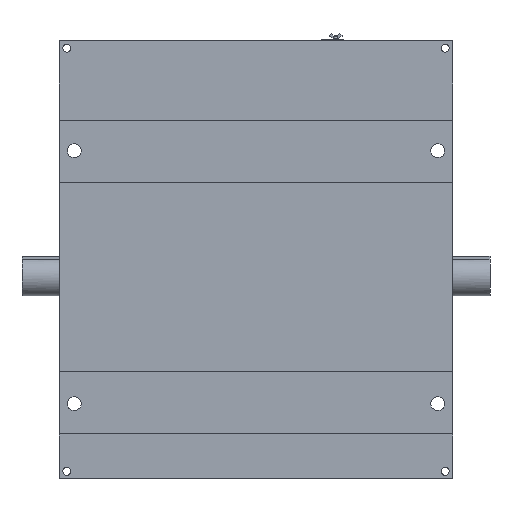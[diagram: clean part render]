
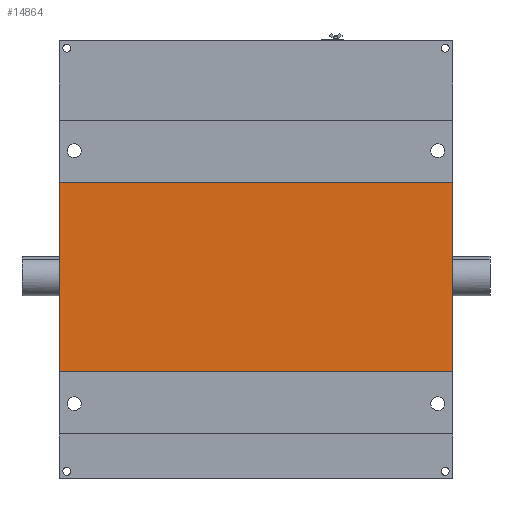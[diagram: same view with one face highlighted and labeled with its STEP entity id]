
A CAD part, front view. The second image highlights one B-rep face of the part: STEP entity #14864.
In plain terms, the highlighted planar face has unit normal (0, -1, 0).
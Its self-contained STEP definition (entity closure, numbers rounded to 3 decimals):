
#397 = DIRECTION ( 'NONE',  ( 0., 0., -1. ) ) ;
#1763 = CARTESIAN_POINT ( 'NONE',  ( 75., -367.5, 190. ) ) ;
#1904 = EDGE_CURVE ( 'NONE', #16243, #17895, #13025, .T. ) ;
#2425 = CARTESIAN_POINT ( 'NONE',  ( 865., -367.5, -190. ) ) ;
#2942 = VECTOR ( 'NONE', #9801, 1000. ) ;
#4615 = VERTEX_POINT ( 'NONE', #2425 ) ;
#4660 = LINE ( 'NONE', #22508, #5886 ) ;
#5289 = ORIENTED_EDGE ( 'NONE', *, *, #29200, .F. ) ;
#5886 = VECTOR ( 'NONE', #32347, 1000. ) ;
#7334 = AXIS2_PLACEMENT_3D ( 'NONE', #23382, #17747, #20556 ) ;
#9801 = DIRECTION ( 'NONE',  ( -1., 0., 0. ) ) ;
#10007 = VECTOR ( 'NONE', #15196, 1000. ) ;
#10427 = LINE ( 'NONE', #15435, #25339 ) ;
#11179 = CARTESIAN_POINT ( 'NONE',  ( 75., -367.5, -190. ) ) ;
#11677 = EDGE_CURVE ( 'NONE', #17895, #29191, #4660, .T. ) ;
#12302 = LINE ( 'NONE', #22474, #2942 ) ;
#12513 = EDGE_LOOP ( 'NONE', ( #23912, #20937, #5289, #31310 ) ) ;
#12698 = CARTESIAN_POINT ( 'NONE',  ( 75., -367.5, 475. ) ) ;
#13025 = LINE ( 'NONE', #12698, #10007 ) ;
#14864 = ADVANCED_FACE ( 'NONE', ( #18072 ), #20727, .F. ) ;
#15196 = DIRECTION ( 'NONE',  ( 0., 0., 1. ) ) ;
#15435 = CARTESIAN_POINT ( 'NONE',  ( 865., -367.5, 475. ) ) ;
#16243 = VERTEX_POINT ( 'NONE', #11179 ) ;
#17747 = DIRECTION ( 'NONE',  ( 0., 1., 0. ) ) ;
#17895 = VERTEX_POINT ( 'NONE', #1763 ) ;
#18072 = FACE_OUTER_BOUND ( 'NONE', #12513, .T. ) ;
#20556 = DIRECTION ( 'NONE',  ( 1., 0., 0. ) ) ;
#20727 = PLANE ( 'NONE',  #7334 ) ;
#20937 = ORIENTED_EDGE ( 'NONE', *, *, #1904, .F. ) ;
#22474 = CARTESIAN_POINT ( 'NONE',  ( 865., -367.5, -190. ) ) ;
#22508 = CARTESIAN_POINT ( 'NONE',  ( 865., -367.5, 190. ) ) ;
#23382 = CARTESIAN_POINT ( 'NONE',  ( 865., -367.5, 475. ) ) ;
#23912 = ORIENTED_EDGE ( 'NONE', *, *, #11677, .F. ) ;
#24950 = CARTESIAN_POINT ( 'NONE',  ( 865., -367.5, 190. ) ) ;
#25339 = VECTOR ( 'NONE', #397, 1000. ) ;
#29191 = VERTEX_POINT ( 'NONE', #24950 ) ;
#29200 = EDGE_CURVE ( 'NONE', #4615, #16243, #12302, .T. ) ;
#29656 = EDGE_CURVE ( 'NONE', #29191, #4615, #10427, .T. ) ;
#31310 = ORIENTED_EDGE ( 'NONE', *, *, #29656, .F. ) ;
#32347 = DIRECTION ( 'NONE',  ( 1., 0., 0. ) ) ;
